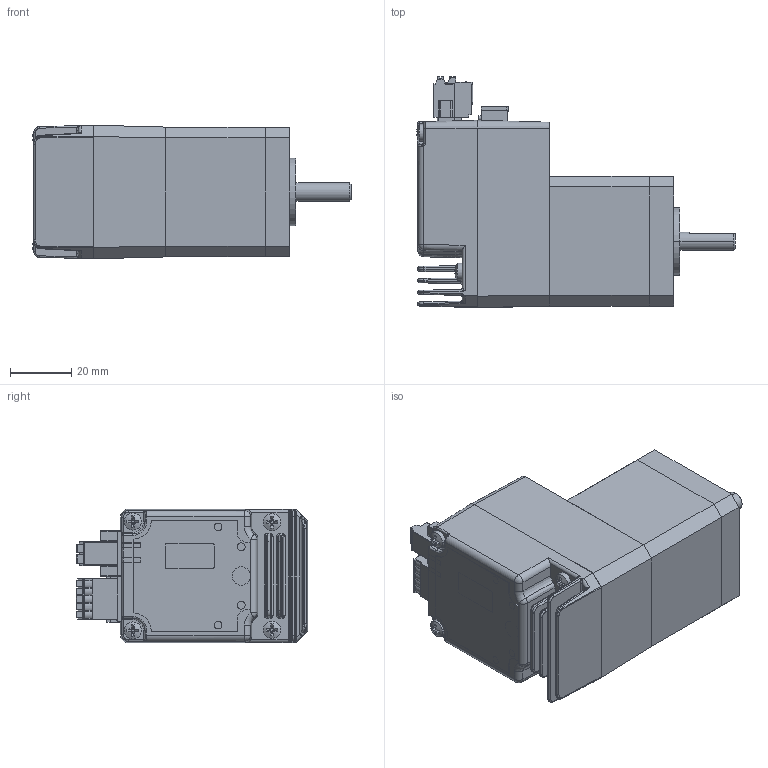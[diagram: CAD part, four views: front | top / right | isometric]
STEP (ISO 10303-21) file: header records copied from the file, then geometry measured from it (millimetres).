
FILE_DESCRIPTION (( 'STEP AP214' ), '1' );
FILE_NAME ('TSM17-3AG夥厙.STEP', '2021-07-14T02:49:55', ( 'Windows User' ), ( 'P R C' ), 'SwSTEP 2.0', 'SolidWorks 2015', '' );
FILE_SCHEMA (( 'AUTOMOTIVE_DESIGN' ));
Length unit declared in the file: millimetre
Products named in the file (18): 11.3ag; 5.3ag; 10.3ag; 13.3ag; TSM17-3AG夥厙; 4.3ag; 1.3ag; 12.3ag; 2.3ag; 7.3ag; 16.3ag; 9.3ag; 17.3ag; 18.3ag; 6.3ag; 8.3ag; 15.3ag; 3.3ag
Assembly tree (20 placements, depth 3):
  TSM17-3AG夥厙
    13.3ag
      16.3ag
      15.3ag
      18.3ag
      17.3ag
    12.3ag
    5.3ag
    4.3ag
    3.3ag
    10.3ag
    9.3ag
    11.3ag
    7.3ag
    2.3ag  x2
    6.3ag  x2
    8.3ag  x2
    1.3ag
Bounding box: 103.75 x 75.33 x 43.53 mm (x, y, z)
Volume: 114704.1 mm3; surface area: 66817.8 mm2
Topology: 16 solids, 26 shells, 3260 faces, 8421 edges, 5408 vertices
Faces by surface type: plane 2120, cylinder 778, bspline 183, torus 88, cone 72, sphere 19
Entity records: 125458 total; most frequent: CARTESIAN_POINT 22232, ORIENTED_EDGE 16370, DIRECTION 15659, EDGE_CURVE 8187, VECTOR 6067, LINE 6067, VERTEX_POINT 5286, AXIS2_PLACEMENT_3D 4796
